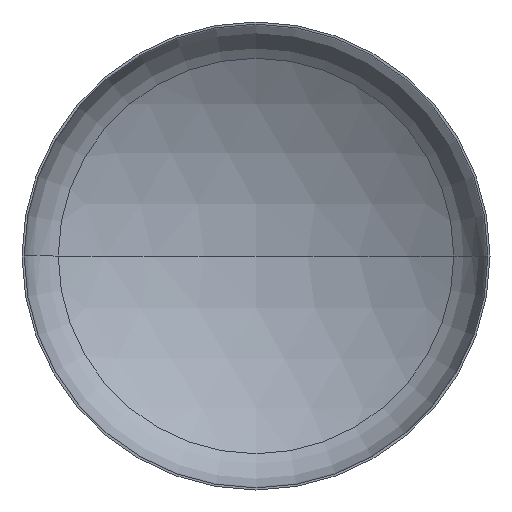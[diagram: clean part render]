
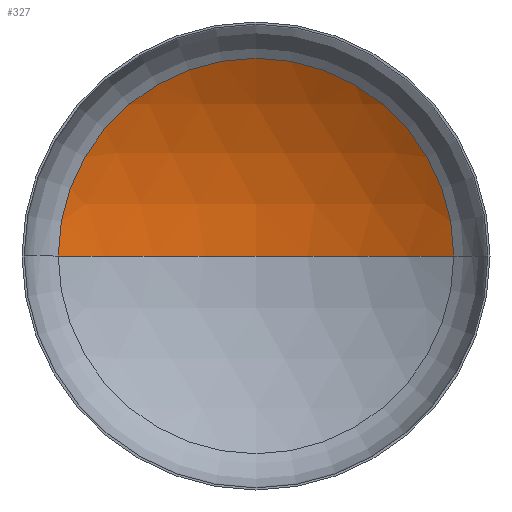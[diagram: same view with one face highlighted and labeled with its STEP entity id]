
A CAD part, front view. The second image highlights one B-rep face of the part: STEP entity #327.
In plain terms, the highlighted spherical face has radius 5600 mm.
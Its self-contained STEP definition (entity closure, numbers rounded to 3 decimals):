
#14 = AXIS2_PLACEMENT_3D ( 'NONE', #313, #338, #201 ) ;
#18 = ORIENTED_EDGE ( 'NONE', *, *, #126, .F. ) ;
#47 = SPHERICAL_SURFACE ( 'NONE', #14, 5600. ) ;
#48 = AXIS2_PLACEMENT_3D ( 'NONE', #227, #225, #254 ) ;
#54 = AXIS2_PLACEMENT_3D ( 'NONE', #173, #175, #191 ) ;
#67 = AXIS2_PLACEMENT_3D ( 'NONE', #196, #194, #195 ) ;
#80 = CARTESIAN_POINT ( 'NONE',  ( 2957.345, 1017.119, 0. ) ) ;
#109 = EDGE_LOOP ( 'NONE', ( #18, #144, #142 ) ) ;
#118 = EDGE_CURVE ( 'NONE', #182, #305, #223, .T. ) ;
#125 = EDGE_CURVE ( 'NONE', #143, #182, #342, .T. ) ;
#126 = EDGE_CURVE ( 'NONE', #143, #305, #139, .T. ) ;
#139 = CIRCLE ( 'NONE', #48, 5600. ) ;
#142 = ORIENTED_EDGE ( 'NONE', *, *, #118, .T. ) ;
#143 = VERTEX_POINT ( 'NONE', #362 ) ;
#144 = ORIENTED_EDGE ( 'NONE', *, *, #125, .T. ) ;
#173 = CARTESIAN_POINT ( 'NONE',  ( 0., -3738.311, 0. ) ) ;
#175 = DIRECTION ( 'NONE',  ( 0., 0., -1. ) ) ;
#182 = VERTEX_POINT ( 'NONE', #80 ) ;
#191 = DIRECTION ( 'NONE',  ( -1., 0., 0. ) ) ;
#194 = DIRECTION ( 'NONE',  ( 0., -1., 0. ) ) ;
#195 = DIRECTION ( 'NONE',  ( 1., 0., 0. ) ) ;
#196 = CARTESIAN_POINT ( 'NONE',  ( 0., 1017.119, 0. ) ) ;
#201 = DIRECTION ( 'NONE',  ( -1., 0., 0. ) ) ;
#223 = CIRCLE ( 'NONE', #67, 2957.345 ) ;
#225 = DIRECTION ( 'NONE',  ( 0., 0., 1. ) ) ;
#227 = CARTESIAN_POINT ( 'NONE',  ( 0., -3738.311, 0. ) ) ;
#242 = FACE_OUTER_BOUND ( 'NONE', #109, .T. ) ;
#243 = CARTESIAN_POINT ( 'NONE',  ( -2957.345, 1017.119, 0. ) ) ;
#254 = DIRECTION ( 'NONE',  ( 1., 0., 0. ) ) ;
#305 = VERTEX_POINT ( 'NONE', #243 ) ;
#313 = CARTESIAN_POINT ( 'NONE',  ( 0., -3738.311, 0. ) ) ;
#327 = ADVANCED_FACE ( 'NONE', ( #242 ), #47, .F. ) ;
#338 = DIRECTION ( 'NONE',  ( 0., 0., -1. ) ) ;
#342 = CIRCLE ( 'NONE', #54, 5600. ) ;
#362 = CARTESIAN_POINT ( 'NONE',  ( 0., 1861.689, 0. ) ) ;
